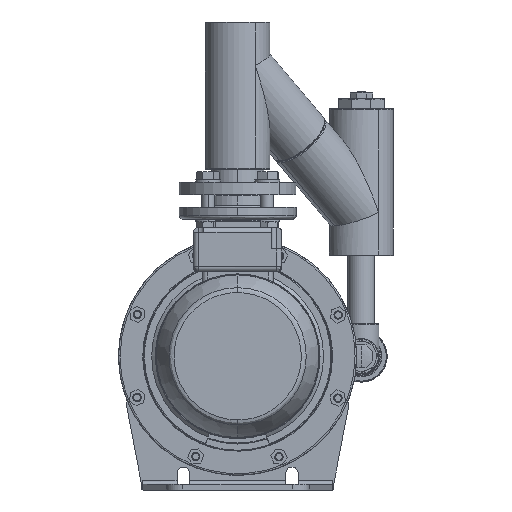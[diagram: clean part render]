
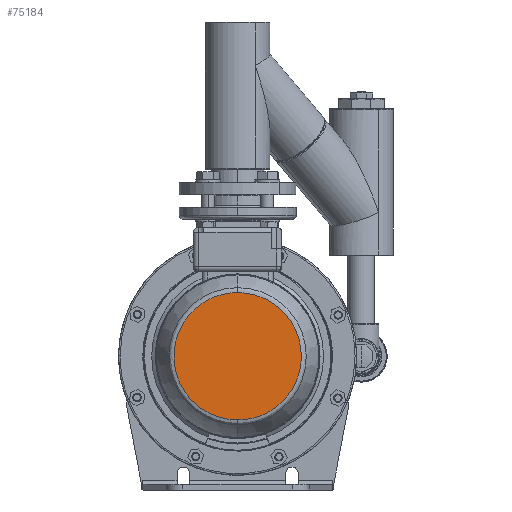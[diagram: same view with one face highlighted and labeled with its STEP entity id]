
A CAD part, front view. The second image highlights one B-rep face of the part: STEP entity #75184.
In plain terms, the highlighted planar face has unit normal (0, -1, 0).
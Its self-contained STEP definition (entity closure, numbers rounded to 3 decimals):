
#7454 = CARTESIAN_POINT ( 'NONE',  ( -154.478, -626.414, 101.193 ) ) ;
#49065 = AXIS2_PLACEMENT_3D ( 'NONE', #49078, #49077, #49076 ) ;
#49068 = PLANE ( 'NONE',  #49065 ) ;
#49069 =( BOUNDED_CURVE ( )  B_SPLINE_CURVE ( 3, ( #49088, #49087, #49085, #49084 ),
 .UNSPECIFIED., .F., .T. ) 
 B_SPLINE_CURVE_WITH_KNOTS ( ( 4, 4 ),
 ( 0., 1. ),
 .UNSPECIFIED. ) 
 CURVE ( )  GEOMETRIC_REPRESENTATION_ITEM ( )  RATIONAL_B_SPLINE_CURVE ( ( 1., 0.333, 0.333, 1. ) ) 
 REPRESENTATION_ITEM ( '' )  );
#49075 = FACE_OUTER_BOUND ( 'NONE', #75191, .T. ) ;
#49076 = DIRECTION ( 'NONE',  ( 1., 0., 0. ) ) ;
#49077 = DIRECTION ( 'NONE',  ( 0., -1., 0. ) ) ;
#49078 = CARTESIAN_POINT ( 'NONE',  ( -154.478, -626.414, 25. ) ) ;
#49084 = CARTESIAN_POINT ( 'NONE',  ( -154.478, -626.414, -51.193 ) ) ;
#49085 = CARTESIAN_POINT ( 'NONE',  ( -2.093, -626.414, -51.193 ) ) ;
#49087 = CARTESIAN_POINT ( 'NONE',  ( -2.093, -626.414, 101.193 ) ) ;
#49088 = CARTESIAN_POINT ( 'NONE',  ( -154.478, -626.414, 101.193 ) ) ;
#60761 = EDGE_CURVE ( 'NONE', #60776, #69031, #85864, .T. ) ;
#60776 = VERTEX_POINT ( 'NONE', #86867 ) ;
#69031 = VERTEX_POINT ( 'NONE', #7454 ) ;
#75181 = EDGE_CURVE ( 'NONE', #69031, #60776, #49069, .T. ) ;
#75184 = ADVANCED_FACE ( 'NONE', ( #49075 ), #49068, .T. ) ;
#75190 = ORIENTED_EDGE ( 'NONE', *, *, #75181, .F. ) ;
#75191 = EDGE_LOOP ( 'NONE', ( #75195, #75190 ) ) ;
#75195 = ORIENTED_EDGE ( 'NONE', *, *, #60761, .F. ) ;
#85864 =( BOUNDED_CURVE ( )  B_SPLINE_CURVE ( 3, ( #86762, #86772, #86327, #86333 ),
 .UNSPECIFIED., .F., .T. ) 
 B_SPLINE_CURVE_WITH_KNOTS ( ( 4, 4 ),
 ( 0., 1. ),
 .UNSPECIFIED. ) 
 CURVE ( )  GEOMETRIC_REPRESENTATION_ITEM ( )  RATIONAL_B_SPLINE_CURVE ( ( 1., 0.333, 0.333, 1. ) ) 
 REPRESENTATION_ITEM ( '' )  );
#86327 = CARTESIAN_POINT ( 'NONE',  ( -306.864, -626.414, 101.193 ) ) ;
#86333 = CARTESIAN_POINT ( 'NONE',  ( -154.478, -626.414, 101.193 ) ) ;
#86762 = CARTESIAN_POINT ( 'NONE',  ( -154.478, -626.414, -51.193 ) ) ;
#86772 = CARTESIAN_POINT ( 'NONE',  ( -306.864, -626.414, -51.193 ) ) ;
#86867 = CARTESIAN_POINT ( 'NONE',  ( -154.478, -626.414, -51.193 ) ) ;
